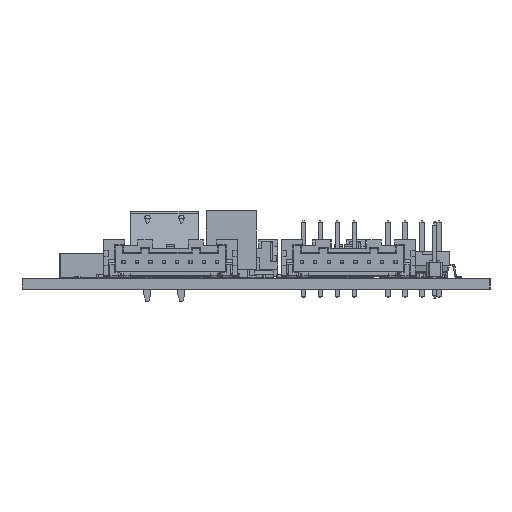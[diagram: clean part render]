
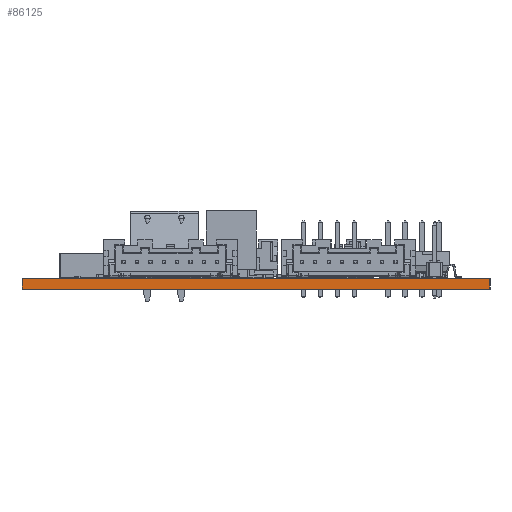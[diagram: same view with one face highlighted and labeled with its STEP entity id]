
A CAD part, left-side view. The second image highlights one B-rep face of the part: STEP entity #86125.
In plain terms, the highlighted planar face has unit normal (-1, 0, 0).
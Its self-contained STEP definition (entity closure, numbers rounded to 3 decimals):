
#86069 = VERTEX_POINT('',#86070);
#86070 = CARTESIAN_POINT('',(0.,0.,1.6));
#86076 = EDGE_CURVE('',#86077,#86069,#86079,.T.);
#86077 = VERTEX_POINT('',#86078);
#86078 = CARTESIAN_POINT('',(0.,-0.,0.));
#86079 = LINE('',#86080,#86081);
#86080 = CARTESIAN_POINT('',(0.,-0.,0.));
#86081 = VECTOR('',#86082,1.);
#86082 = DIRECTION('',(0.,0.,1.));
#86125 = ADVANCED_FACE('',(#86126),#86151,.T.);
#86126 = FACE_BOUND('',#86127,.T.);
#86127 = EDGE_LOOP('',(#86128,#86129,#86137,#86145));
#86128 = ORIENTED_EDGE('',*,*,#86076,.T.);
#86129 = ORIENTED_EDGE('',*,*,#86130,.T.);
#86130 = EDGE_CURVE('',#86069,#86131,#86133,.T.);
#86131 = VERTEX_POINT('',#86132);
#86132 = CARTESIAN_POINT('',(0.,70.,1.6));
#86133 = LINE('',#86134,#86135);
#86134 = CARTESIAN_POINT('',(0.,0.,1.6));
#86135 = VECTOR('',#86136,1.);
#86136 = DIRECTION('',(0.,1.,0.));
#86137 = ORIENTED_EDGE('',*,*,#86138,.F.);
#86138 = EDGE_CURVE('',#86139,#86131,#86141,.T.);
#86139 = VERTEX_POINT('',#86140);
#86140 = CARTESIAN_POINT('',(0.,70.,0.));
#86141 = LINE('',#86142,#86143);
#86142 = CARTESIAN_POINT('',(0.,70.,0.));
#86143 = VECTOR('',#86144,1.);
#86144 = DIRECTION('',(0.,0.,1.));
#86145 = ORIENTED_EDGE('',*,*,#86146,.F.);
#86146 = EDGE_CURVE('',#86077,#86139,#86147,.T.);
#86147 = LINE('',#86148,#86149);
#86148 = CARTESIAN_POINT('',(0.,-0.,0.));
#86149 = VECTOR('',#86150,1.);
#86150 = DIRECTION('',(0.,1.,0.));
#86151 = PLANE('',#86152);
#86152 = AXIS2_PLACEMENT_3D('',#86153,#86154,#86155);
#86153 = CARTESIAN_POINT('',(0.,0.,0.));
#86154 = DIRECTION('',(-1.,0.,0.));
#86155 = DIRECTION('',(0.,1.,0.));
